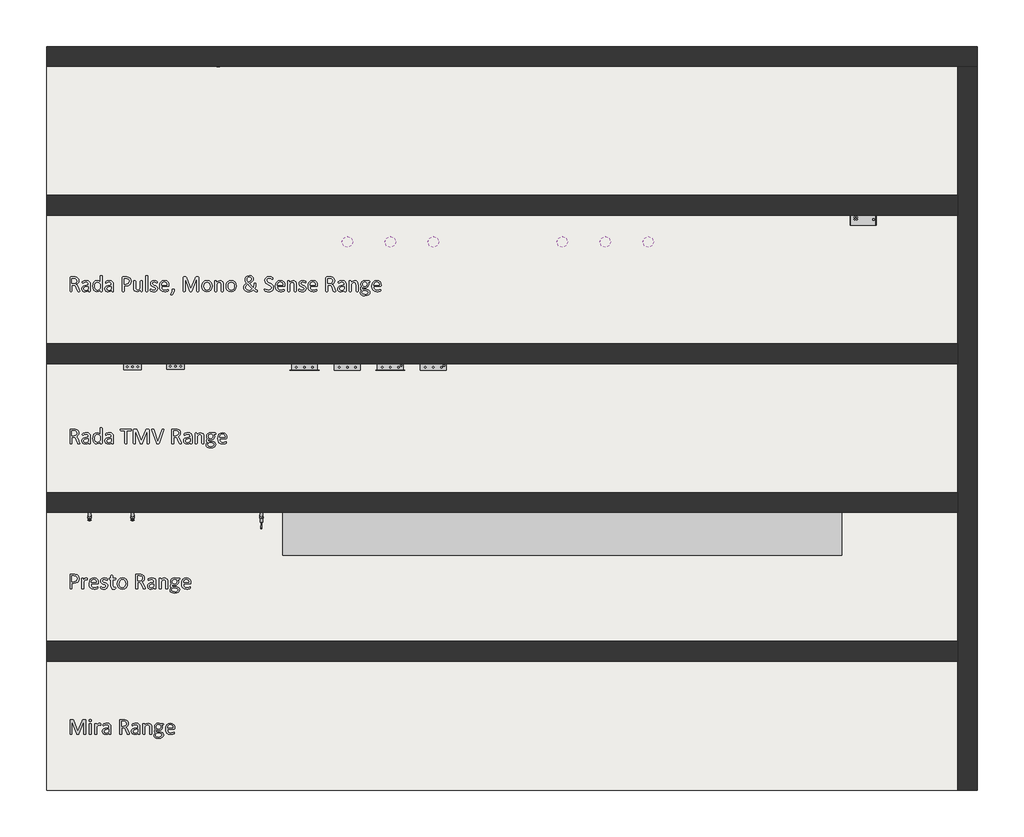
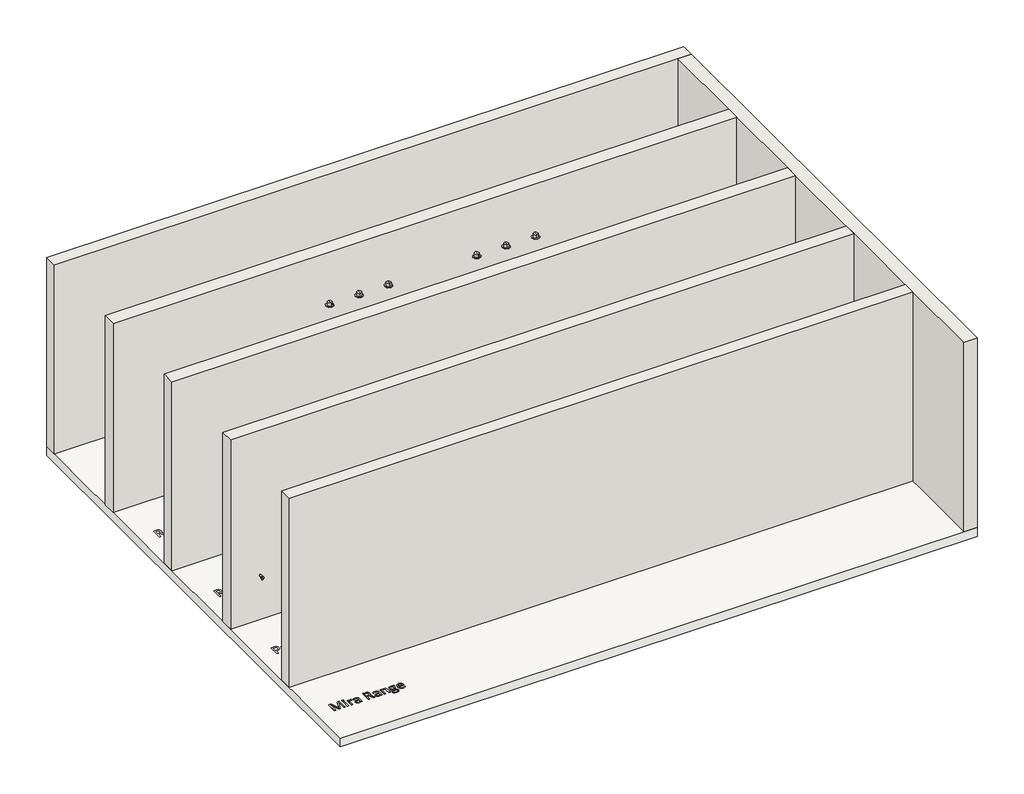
# One storey, part 1 of 3: 17 flow terminals, 6 walls, 1 furniture element, 1 proxy, 1 slab.
"""IFC4 building model written with IfcOpenShell, lengths in millimetres."""

from ifc_helpers import new_model, si_unit, frame, origin, origin_with_axes, place, context, project, spatial, polyline, outline, extrude, faceted_brep, transform, mapped, element, save
from components import flow_terminal_8cce0363, flow_terminal_54447bbb, flow_terminal_6f73c769, flow_terminal_be7e81ce, flow_terminal_5358b9b5, flow_terminal_3c11a249, flow_terminal_3611aa53, basin_sensor_650921_deac0942, cold_p63007_e8478112, control_box_09379_0299824e, standard_p63909_1e119a7e, casework_1_casework_1_e628ac29

model = new_model("IFC4")

# Units and contexts
model_context = context("Model", 3, world=origin())
ifc_project = project(units=[si_unit("LENGTHUNIT", "METRE", prefix="MILLI")], contexts=[model_context])

# Site, building, storey
site = spatial("IfcSite", under=ifc_project)
building = spatial("IfcBuilding", under=site)
storey = spatial("IfcBuildingStorey", under=building, Name="1 Coarse & Medium", Elevation=0.0)

# Proxy
placement = place(None, origin())
element("IfcBuildingElementProxy", 1, Name="200mm Arial", ObjectType="200mm Arial", at=placement, inside=storey, context=model_context, shape_type="SweptSolid", body=[
    extrude(outline(polyline([(-2018.8171013, -10763.8519575), (-2019.3550112, -10765.6962198), (-2021.2761177, -10766.925728), (-2024.785339, -10767.7197854), (-2030.3437407, -10768.0527772), (-2035.7996833, -10767.7197854), (-2039.3857489, -10766.925728), (-2041.2300112, -10765.6962198), (-2041.767921, -10763.8519575), (-2041.767921, -10616.0548264), (-2100.3744784, -10764.5179411), (-2101.5015276, -10766.0804411), (-2103.6019374, -10767.1818755), (-2106.8806259, -10767.8478592), (-2111.3888227, -10768.0527772), (-2116.1275522, -10767.7966296), (-2119.4318554, -10767.0794165), (-2121.4810358, -10765.9523674), (-2122.4543964, -10764.5179411), (-2179.37038, -10616.0548264), (-2179.37038, -10763.8519575), (-2180.0107489, -10765.6962198), (-2181.9318554, -10766.925728), (-2185.517921, -10767.7197854), (-2191.1531669, -10768.0527772), (-2196.6347243, -10767.7197854), (-2200.1439456, -10766.925728), (-2201.9369784, -10765.6962198), (-2202.4236587, -10763.8519575), (-2202.4236587, -10607.8068755), (-2199.477962, -10599.9175313), (-2192.8949702, -10597.5609739), (-2178.9093145, -10597.5609739), (-2171.3785768, -10598.3550313), (-2165.7433308, -10600.8396624), (-2161.7218145, -10605.1685559), (-2158.8785768, -10611.3417116), (-2110.62038, -10734.2413018), (-2060.9277571, -10611.7003182), (-2057.7002981, -10605.0148674), (-2053.8580849, -10600.6347444), (-2049.2218145, -10598.278187), (-2043.3048063, -10597.5609739), (-2028.6531669, -10597.5609739), (-2024.785339, -10598.1501133), (-2021.7115686, -10599.9943755), (-2019.6367735, -10603.1449903), (-2018.8171013, -10607.8068755), (-2018.8171013, -10763.8519575)])), origin_with_axes(), (0.0, 0.0, 1.0), 5.0),
    extrude(outline(polyline([(-1953.2433308, -10607.243351), (-1956.0609538, -10617.7197854), (-1966.5117735, -10620.5117936), (-1976.7064456, -10617.7966296), (-1979.472839, -10607.550728), (-1976.6552161, -10597.0742936), (-1966.2043964, -10594.2822854), (-1956.0097243, -10596.9974493), (-1953.2433308, -10607.243351)])), origin_with_axes(), (0.0, 0.0, 1.0), 5.0),
    extrude(outline(polyline([(-1953.2433308, -10764.0568755), (-1953.8068554, -10765.7986788), (-1955.625503, -10767.028187), (-1959.0834948, -10767.7966296), (-1964.7699702, -10768.0527772), (-1970.3539866, -10767.7966296), (-1973.8888227, -10767.028187), (-1975.7074702, -10765.7986788), (-1976.1941505, -10764.0568755), (-1976.1941505, -10647.4585149), (-1975.7074702, -10645.7935559), (-1973.8888227, -10644.4872034), (-1970.3539866, -10643.7187608), (-1964.7699702, -10643.4626133), (-1959.0834948, -10643.7187608), (-1955.625503, -10644.4872034), (-1953.8068554, -10645.7935559), (-1953.2433308, -10647.4585149), (-1953.2433308, -10764.0568755)])), origin_with_axes(), (0.0, 0.0, 1.0), 5.0),
    extrude(outline(polyline([(-1845.0466095, -10653.2986788), (-1845.1746833, -10657.9605641), (-1845.6869784, -10660.9831051), (-1846.6347243, -10662.6992936), (-1848.222839, -10663.2884329), (-1850.7074702, -10662.6992936), (-1854.0117735, -10661.5210149), (-1858.1357489, -10660.3939657), (-1863.0793964, -10659.8560559), (-1869.3293964, -10661.2648674), (-1875.7586997, -10665.8755231), (-1882.8027571, -10674.3796214), (-1890.9482489, -10687.3663018), (-1890.9482489, -10764.0568755), (-1891.5117735, -10765.7986788), (-1893.330421, -10767.028187), (-1896.7884128, -10767.7966296), (-1902.4748882, -10768.0527772), (-1908.0589046, -10767.7966296), (-1911.5937407, -10767.028187), (-1913.4123882, -10765.7986788), (-1913.8990686, -10764.0568755), (-1913.8990686, -10647.4585149), (-1913.4892325, -10645.7167116), (-1911.8242735, -10644.4359739), (-1908.6224292, -10643.6675313), (-1903.4482489, -10643.4626133), (-1898.3765276, -10643.6675313), (-1895.2515276, -10644.4359739), (-1893.6377981, -10645.7167116), (-1893.1511177, -10647.4585149), (-1893.1511177, -10664.4667116), (-1884.2884128, -10652.3253182), (-1876.4246833, -10644.9226542), (-1869.0988636, -10641.2085149), (-1861.7474292, -10640.1839247), (-1858.0076751, -10640.363228), (-1853.6019374, -10641.0548264), (-1849.4523472, -10642.2074903), (-1846.8396423, -10643.4626133), (-1845.097839, -10648.6880231), (-1845.0466095, -10653.2986788)])), origin_with_axes(), (0.0, 0.0, 1.0), 5.0),
    extrude(outline(polyline([(-1727.0138227, -10764.1081051), (-1728.1408718, -10766.4902772), (-1731.2146423, -10767.6685559), (-1736.9523472, -10768.0527772), (-1742.7668964, -10767.6685559), (-1745.9175112, -10766.4902772), (-1746.8908718, -10764.1081051), (-1746.8908718, -10752.3253182), (-1764.1552161, -10765.9523674), (-1784.3396423, -10771.3314657), (-1801.2709948, -10768.8980641), (-1814.1552161, -10761.8540067), (-1822.4287817, -10750.5322854), (-1825.3744784, -10735.2658919), (-1821.3017325, -10717.8990887), (-1809.6214046, -10705.6552362), (-1790.9994784, -10698.3550313), (-1766.2043964, -10695.9216296), (-1749.9646423, -10695.9216296), (-1749.9646423, -10686.1367936), (-1751.3990686, -10673.3294165), (-1756.0097243, -10664.0568755), (-1764.2320604, -10658.4728592), (-1776.6552161, -10656.5773674), (-1790.8714046, -10658.6265477), (-1801.8857489, -10663.1347444), (-1809.8007079, -10667.6429411), (-1814.5138227, -10669.6921214), (-1816.3580849, -10669.1542116), (-1817.7156669, -10667.5148674), (-1818.5609538, -10664.6972444), (-1818.8171013, -10660.9318755), (-1818.3560358, -10655.5527772), (-1816.1019374, -10651.7874083), (-1809.9543964, -10647.9451952), (-1799.9134128, -10644.1542116), (-1787.4902571, -10641.3109739), (-1773.8888227, -10640.1839247), (-1752.1162817, -10643.0783919), (-1737.5927161, -10651.5312608), (-1729.5240686, -10665.3376133), (-1727.0138227, -10684.5999083), (-1727.0138227, -10764.1081051)]), holes=[polyline([(-1749.9646423, -10712.3150723), (-1768.2023472, -10712.3150723), (-1783.4175112, -10713.8263428), (-1794.1500931, -10718.28331), (-1800.4257079, -10725.3529821), (-1802.4236587, -10734.8560559), (-1800.9892325, -10743.1296214), (-1796.6859538, -10749.5076952), (-1789.7955849, -10753.5804411), (-1780.5998882, -10754.9380231), (-1765.0261177, -10750.6091296), (-1749.9646423, -10737.3663018), (-1749.9646423, -10712.3150723)])]), origin_with_axes(), (0.0, 0.0, 1.0), 5.0),
    extrude(outline(polyline([(-1512.8232489, -10763.903187), (-1513.2074702, -10765.6962198), (-1514.898044, -10767.0025723), (-1518.5865686, -10767.7966296), (-1524.9134128, -10768.0527772), (-1530.4718145, -10767.7966296), (-1533.955421, -10766.9513428), (-1535.9789866, -10765.3376133), (-1537.2084948, -10762.7249083), (-1552.8334948, -10723.278187), (-1558.4943554, -10710.9318755), (-1565.3591095, -10701.2238837), (-1574.7084948, -10694.8970395), (-1587.6695604, -10692.6429411), (-1602.4236587, -10692.6429411), (-1602.4236587, -10763.903187), (-1603.0127981, -10765.7218346), (-1604.8826751, -10766.9513428), (-1608.3662817, -10767.7197854), (-1613.8990686, -10768.0527772), (-1619.4318554, -10767.7197854), (-1622.9666915, -10766.925728), (-1624.8365686, -10765.6962198), (-1625.3744784, -10763.8519575), (-1625.3744784, -10606.7310559), (-1622.7361587, -10599.5845395), (-1617.0752981, -10597.5609739), (-1581.5220194, -10597.5609739), (-1571.0199702, -10597.8939657), (-1563.438003, -10598.6367936), (-1546.3017325, -10604.0158919), (-1533.8017325, -10613.3908919), (-1526.24538, -10626.403187), (-1523.7351341, -10642.5404821), (-1525.9636177, -10657.9093346), (-1532.4185358, -10669.9226542), (-1542.5363636, -10678.9390477), (-1555.7535768, -10685.4195805), (-1548.12038, -10690.055851), (-1541.7423063, -10696.7669165), (-1536.1839046, -10705.7576952), (-1530.9072653, -10717.2331051), (-1515.6921013, -10754.3744985), (-1513.335544, -10760.9318755), (-1512.8232489, -10763.903187)]), holes=[polyline([(-1546.6859538, -10644.9994985), (-1551.0660768, -10628.5548264), (-1556.9382591, -10622.7786993), (-1565.7945604, -10618.8724493), (-1573.0691505, -10617.6173264), (-1583.7248882, -10617.2331051), (-1602.4236587, -10617.2331051), (-1602.4236587, -10672.97081), (-1580.7535768, -10672.97081), (-1565.5896423, -10670.8704001), (-1554.9339046, -10664.9790067), (-1548.6839046, -10656.090687), (-1546.6859538, -10644.9994985)])]), origin_with_axes(), (0.0, 0.0, 1.0), 5.0),
    extrude(outline(polyline([(-1389.3089046, -10764.1081051), (-1390.4359538, -10766.4902772), (-1393.5097243, -10767.6685559), (-1399.2474292, -10768.0527772), (-1405.0619784, -10767.6685559), (-1408.2125931, -10766.4902772), (-1409.1859538, -10764.1081051), (-1409.1859538, -10752.3253182), (-1426.4502981, -10765.9523674), (-1446.6347243, -10771.3314657), (-1463.5660768, -10768.8980641), (-1476.4502981, -10761.8540067), (-1484.7238636, -10750.5322854), (-1487.6695604, -10735.2658919), (-1483.5968145, -10717.8990887), (-1471.9164866, -10705.6552362), (-1453.2945604, -10698.3550313), (-1428.4994784, -10695.9216296), (-1412.2597243, -10695.9216296), (-1412.2597243, -10686.1367936), (-1413.6941505, -10673.3294165), (-1418.3048063, -10664.0568755), (-1426.5271423, -10658.4728592), (-1438.9502981, -10656.5773674), (-1453.1664866, -10658.6265477), (-1464.1808308, -10663.1347444), (-1472.0957899, -10667.6429411), (-1476.8089046, -10669.6921214), (-1478.6531669, -10669.1542116), (-1480.0107489, -10667.5148674), (-1480.8560358, -10664.6972444), (-1481.1121833, -10660.9318755), (-1480.6511177, -10655.5527772), (-1478.3970194, -10651.7874083), (-1472.2494784, -10647.9451952), (-1462.2084948, -10644.1542116), (-1449.785339, -10641.3109739), (-1436.1839046, -10640.1839247), (-1414.4113636, -10643.0783919), (-1399.8877981, -10651.5312608), (-1391.8191505, -10665.3376133), (-1389.3089046, -10684.5999083), (-1389.3089046, -10764.1081051)]), holes=[polyline([(-1412.2597243, -10712.3150723), (-1430.4974292, -10712.3150723), (-1445.7125931, -10713.8263428), (-1456.4451751, -10718.28331), (-1462.7207899, -10725.3529821), (-1464.7187407, -10734.8560559), (-1463.2843145, -10743.1296214), (-1458.9810358, -10749.5076952), (-1452.0906669, -10753.5804411), (-1442.8949702, -10754.9380231), (-1427.3211997, -10750.6091296), (-1412.2597243, -10737.3663018), (-1412.2597243, -10712.3150723)])]), origin_with_axes(), (0.0, 0.0, 1.0), 5.0),
    extrude(outline(polyline([(-1251.6039866, -10764.005646), (-1252.1675112, -10765.7474493), (-1253.9861587, -10767.0025723), (-1257.4441505, -10767.7966296), (-1263.0281669, -10768.0527772), (-1268.7146423, -10767.7966296), (-1272.1726341, -10767.028187), (-1273.9912817, -10765.7986788), (-1274.5548063, -10764.005646), (-1274.5548063, -10695.5630231), (-1276.0660768, -10679.4769575), (-1280.4461997, -10668.9492936), (-1287.9000931, -10662.1869985), (-1298.4789866, -10659.8560559), (-1314.0271423, -10665.568146), (-1330.2925112, -10682.34581), (-1330.2925112, -10764.005646), (-1330.8560358, -10765.7986788), (-1332.6746833, -10767.028187), (-1336.1326751, -10767.7966296), (-1341.8191505, -10768.0527772), (-1347.4031669, -10767.7966296), (-1350.938003, -10767.028187), (-1352.7566505, -10765.7986788), (-1353.2433308, -10764.0568755), (-1353.2433308, -10647.4585149), (-1352.8334948, -10645.7167116), (-1351.1685358, -10644.4359739), (-1347.9666915, -10643.6675313), (-1342.7925112, -10643.4626133), (-1337.7207899, -10643.6675313), (-1334.5957899, -10644.4359739), (-1332.9820604, -10645.7167116), (-1332.49538, -10647.4585149), (-1332.49538, -10662.8785969), (-1312.9000931, -10645.6398674), (-1293.2023472, -10640.1839247), (-1273.6326751, -10644.1798264), (-1260.7740686, -10654.8611788), (-1253.7300112, -10670.5117936), (-1251.6039866, -10692.0794165), (-1251.6039866, -10764.005646)])), origin_with_axes(), (0.0, 0.0, 1.0), 5.0),
    extrude(outline(polyline([(-1113.8990686, -10651.7105641), (-1115.1541915, -10657.9349493), (-1118.3560358, -10659.8560559), (-1135.313003, -10659.8560559), (-1128.8580849, -10670.4605641), (-1127.0138227, -10682.4994985), (-1130.2925112, -10700.7372034), (-1139.6931259, -10714.1593346), (-1154.2423063, -10722.5353592), (-1172.915462, -10725.4298264), (-1186.6705849, -10723.5087198), (-1196.7371833, -10718.6675313), (-1200.835544, -10724.0210149), (-1202.4236587, -10730.9626133), (-1198.0691505, -10738.5445805), (-1186.4912817, -10741.823269), (-1155.0363636, -10743.1552362), (-1138.540462, -10745.6398674), (-1125.5537817, -10751.9667116), (-1116.972839, -10762.03331), (-1113.8990686, -10775.8908919), (-1117.3314456, -10791.7464247), (-1127.8591095, -10804.9636378), (-1145.9431259, -10813.9544165), (-1171.8908718, -10817.2331051), (-1196.455421, -10814.7740887), (-1213.0537817, -10808.0630231), (-1222.4543964, -10797.8939657), (-1225.3744784, -10785.1122034), (-1224.3242735, -10776.5824903), (-1221.0968145, -10768.7443755), (-1215.7177161, -10761.6490887), (-1208.3150522, -10754.9380231), (-1218.7146423, -10746.510769), (-1222.0957899, -10735.5220395), (-1218.6121833, -10720.9472444), (-1210.0056259, -10709.4462198), (-1216.460544, -10698.4318755), (-1218.8171013, -10683.5240887), (-1215.410339, -10665.3119985), (-1205.93288, -10651.6849493), (-1191.3836997, -10643.1552362), (-1172.915462, -10640.1839247), (-1162.8744784, -10641.0548264), (-1154.1142325, -10643.4626133), (-1118.3560358, -10643.4626133), (-1115.0261177, -10645.4861788), (-1113.8990686, -10651.7105641)]), holes=[polyline([(-1146.6859538, -10682.653187), (-1148.4149497, -10671.7092833), (-1153.6019374, -10663.4677362), (-1161.977962, -10658.2999596), (-1173.2740686, -10656.5773674), (-1184.6982489, -10658.7290067), (-1192.7925112, -10664.6204001), (-1197.5824702, -10673.2525723), (-1199.1449702, -10683.4728592), (-1197.4159743, -10694.1285969), (-1192.2289866, -10702.2228592), (-1183.9298063, -10707.3330026), (-1172.8642325, -10709.0363837), (-1161.2095194, -10706.9615887), (-1153.0384128, -10701.198269), (-1148.2484538, -10692.6941706), (-1146.6859538, -10682.653187)]), polyline([(-1136.8498882, -10776.6081051), (-1138.438003, -10769.3911481), (-1143.2023472, -10764.0312608), (-1160.3642325, -10759.3437608), (-1191.5117735, -10758.2167116), (-1198.5558308, -10764.8765477), (-1202.910339, -10770.9216296), (-1205.1132079, -10776.5824903), (-1205.7023472, -10782.34581), (-1203.4994784, -10790.3568243), (-1196.8908718, -10796.1521624), (-1172.3007079, -10800.8396624), (-1155.4974292, -10798.8160969), (-1144.585544, -10793.4113837), (-1138.642921, -10785.7013428), (-1136.8498882, -10776.6081051)])]), origin_with_axes(), (0.0, 0.0, 1.0), 5.0),
    extrude(outline(polyline([(-982.7515276, -10699.6613837), (-985.2873882, -10706.8847444), (-991.1019374, -10709.0363837), (-1067.9974292, -10709.0363837), (-1066.0763227, -10727.9913018), (-1059.6982489, -10742.4380231), (-1048.0691505, -10751.7105641), (-1030.5486587, -10754.9380231), (-1015.9994784, -10753.4267526), (-1004.9339046, -10750.0199903), (-997.2750931, -10746.613228), (-992.7412817, -10745.1019575), (-991.1531669, -10745.5374083), (-990.0517325, -10746.818146), (-989.4882079, -10749.2003182), (-989.3089046, -10752.9400723), (-989.4369784, -10755.680851), (-989.7699702, -10757.755646), (-990.410339, -10759.4206051), (-991.563003, -10760.8294165), (-995.7382079, -10763.3140477), (-1004.7289866, -10766.8488837), (-1017.5363636, -10769.948269), (-1033.0589046, -10771.3314657), (-1058.0845194, -10767.2331051), (-1076.142921, -10755.0404821), (-1087.2084948, -10734.7279821), (-1090.9482489, -10706.3724493), (-1087.0291915, -10678.7085149), (-1075.7330849, -10657.9093346), (-1057.9052161, -10644.7689657), (-1034.4933308, -10640.1839247), (-1010.9277571, -10644.6152772), (-994.9185358, -10656.5517526), (-985.6972243, -10674.1490887), (-982.7515276, -10695.7167116), (-982.7515276, -10699.6613837)]), holes=[polyline([(-1005.7023472, -10692.6429411), (-1007.3609026, -10677.6006768), (-1013.0537817, -10666.1829001), (-1022.6401034, -10658.9787505), (-1035.9789866, -10656.5773674), (-1049.6316505, -10659.5486788), (-1059.4421013, -10667.4636378), (-1065.5640276, -10678.9646624), (-1067.9974292, -10692.6429411), (-1005.7023472, -10692.6429411)])]), origin_with_axes(), (0.0, 0.0, 1.0), 5.0),
])

# Flow terminals
flow_terminal_shape = flow_terminal_8cce0363(model_context)
element("IfcFlowTerminal", 2, ObjectType="Plumbing Fixtures_Sensor_Thornthwaite_Rada Ligature Resistant Sensor : LR Ligature Resistant Sensor - 1640.002", at=placement, inside=storey, context=model_context, shape_type="MappedRepresentation", body=[
    mapped(flow_terminal_shape, transform((-475.3744784, -2993.0527772, 0.0), x_axis=(1.0, 0.0, 0.0), y_axis=(0.0, 1.0, 0.0), z_axis=(0.0, 0.0, 1.0))),
])
flow_terminal_2_shape = flow_terminal_54447bbb(model_context)
element("IfcFlowTerminal", 3, ObjectType="Plumbing Fixtures_Thermostatic Mixing Valve_Thornthwaite_Rada 215dk TMV Cold Feed in 300mm box : Rada 215dk TMV in an exposed box with Lid and Cold Feed - 40861EB300CF", at=placement, inside=storey, context=model_context, shape_type="MappedRepresentation", body=[
    mapped(flow_terminal_2_shape, transform((2024.6255216, -6495.5527772, 0.0), x_axis=(1.0, 0.0, 0.0), y_axis=(0.0, 1.0, 0.0), z_axis=(0.0, 0.0, 1.0))),
])
flow_terminal_3_shape = flow_terminal_6f73c769(model_context)
element("IfcFlowTerminal", 4, ObjectType="Plumbing Fixtures_Thermostatic Mixing Valve_Thornthwaite_Rada 215dk TMV Cold Feed in 300mm box : Rada 215dk TMV in a recessed box with Lid and Cold Feed - 40861RB300CF", at=placement, inside=storey, context=model_context, shape_type="MappedRepresentation", body=[
    mapped(flow_terminal_3_shape, transform((1524.6255216, -6495.5527772, 0.0), x_axis=(1.0, 0.0, 0.0), y_axis=(0.0, 1.0, 0.0), z_axis=(0.0, 0.0, 1.0))),
])
flow_terminal_4_shape = flow_terminal_be7e81ce(model_context)
element("IfcFlowTerminal", 5, ObjectType="Plumbing Fixtures_Thermostatic Mixing Valve_Thornthwaite_Rada 215dk TMV in 300mm box : Rada 215dk TMV in a recessed box with Lid - 40861RB300", at=placement, inside=storey, context=model_context, shape_type="MappedRepresentation", body=[
    mapped(flow_terminal_4_shape, transform((524.6255216, -6495.5527772, 0.0), x_axis=(1.0, 0.0, 0.0), y_axis=(0.0, 1.0, 0.0), z_axis=(0.0, 0.0, 1.0))),
])
flow_terminal_5_shape = flow_terminal_5358b9b5(model_context)
element("IfcFlowTerminal", 6, ObjectType="Plumbing Fixtures_Thermostatic Mixing Valve_Thornthwaite_Rada 215dk TMV in 300mm box : Rada 215dk TMV in an exposed box with Lid - 40861EBG300", at=placement, inside=storey, context=model_context, shape_type="MappedRepresentation", body=[
    mapped(flow_terminal_5_shape, transform((1024.6255216, -6495.5527772, 0.0), x_axis=(1.0, 0.0, 0.0), y_axis=(0.0, 1.0, 0.0), z_axis=(0.0, 0.0, 1.0))),
])
flow_terminal_6_shape = flow_terminal_3c11a249(model_context)
element("IfcFlowTerminal", 7, ObjectType="Plumbing Fixtures_Thermostatic Mixing Valve_Thornthwaite_Rada 215bk TMV in 200mm box : Rada 215bk TMV in recessed stainless steel box with Lid - 40863RB200", at=placement, inside=storey, context=model_context, shape_type="MappedRepresentation", body=[
    mapped(flow_terminal_6_shape, transform((-1475.3744784, -6499.5527772, 0.0), x_axis=(1.0, 0.0, 0.0), y_axis=(0.0, 1.0, 0.0), z_axis=(0.0, 0.0, 1.0))),
])
flow_terminal_7_shape = flow_terminal_3611aa53(model_context)
element("IfcFlowTerminal", 8, ObjectType="Plumbing Fixtures_Thermostatic Mixing Valve_Thornthwaite_Rada 215bk TMV in 200mm box : Rada 215bk TMV in an exposed stainless steel box with Lid - 40863EB200", at=placement, inside=storey, context=model_context, shape_type="MappedRepresentation", body=[
    mapped(flow_terminal_7_shape, transform((-975.3744784, -6495.5527772, 0.0), x_axis=(1.0, 0.0, 0.0), y_axis=(0.0, 1.0, 0.0), z_axis=(0.0, 0.0, 1.0))),
])
basin_sensor_650921_shape = basin_sensor_650921_deac0942(model_context)
element("IfcFlowTerminal", 9, ObjectType="Plumbing Fixtures_Sensor_Thornthwaite_Rada Pulse 125_126 : 125 Urinal Sensor - 1 Stall - 850661", at=placement, inside=storey, context=model_context, shape_type="MappedRepresentation", body=[
    mapped(basin_sensor_650921_shape, transform((4024.6255216, -5042.0527772, 0.0), x_axis=(1.0, 0.0, 0.0), y_axis=(0.0, 1.0, 0.0), z_axis=(0.0, 0.0, 1.0))),
])
element("IfcFlowTerminal", 10, ObjectType="Plumbing Fixtures_Sensor_Thornthwaite_Rada Mono 125_126 : 125 Urinal Sensor - 1 Stall - 850931", at=placement, inside=storey, context=model_context, shape_type="MappedRepresentation", body=[
    mapped(basin_sensor_650921_shape, transform((1524.6255216, -5042.0527772, 0.0), x_axis=(1.0, 0.0, 0.0), y_axis=(0.0, 1.0, 0.0), z_axis=(0.0, 0.0, 1.0))),
])
element("IfcFlowTerminal", 11, ObjectType="Plumbing Fixtures_Sensor_Thornthwaite_Rada Pulse 125_126 : 126 Urinal Sensor - 2 Stall - 850671", at=placement, inside=storey, context=model_context, shape_type="MappedRepresentation", body=[
    mapped(basin_sensor_650921_shape, transform((4524.6255216, -5042.0527772, 0.0), x_axis=(1.0, 0.0, 0.0), y_axis=(0.0, 1.0, 0.0), z_axis=(0.0, 0.0, 1.0))),
])
element("IfcFlowTerminal", 12, ObjectType="Plumbing Fixtures_Sensor_Thornthwaite_Rada Mono 125_126 : 126 Urinal Sensor - 2 Stall - 850941", at=placement, inside=storey, context=model_context, shape_type="MappedRepresentation", body=[
    mapped(basin_sensor_650921_shape, transform((2024.6255216, -5042.0527772, 0.0), x_axis=(1.0, 0.0, 0.0), y_axis=(0.0, 1.0, 0.0), z_axis=(0.0, 0.0, 1.0))),
])
element("IfcFlowTerminal", 13, ObjectType="Plumbing Fixtures_Sensor_Thornthwaite_Rada Pulse 124 : Basin Sensor - 650651", at=placement, inside=storey, context=model_context, shape_type="MappedRepresentation", body=[
    mapped(basin_sensor_650921_shape, transform((3524.6255216, -5042.0527772, 0.0), x_axis=(1.0, 0.0, 0.0), y_axis=(0.0, 1.0, 0.0), z_axis=(0.0, 0.0, 1.0))),
])
element("IfcFlowTerminal", 14, ObjectType="Plumbing Fixtures_Sensor_Thornthwaite_Rada Mono 124 : Basin Sensor - 650921", at=placement, inside=storey, context=model_context, shape_type="MappedRepresentation", body=[
    mapped(basin_sensor_650921_shape, transform((1024.6255216, -5042.0527772, 0.0), x_axis=(1.0, 0.0, 0.0), y_axis=(0.0, 1.0, 0.0), z_axis=(0.0, 0.0, 1.0))),
])
cold_p63007_shape = cold_p63007_e8478112(model_context)
element("IfcFlowTerminal", 15, ObjectType="Plumbing Fixtures_Tap_Thornthwaite_Presto 504_Cold : Cold - P63007", at=placement, inside=storey, context=model_context, shape_type="MappedRepresentation", body=[
    mapped(cold_p63007_shape, transform((-1975.3744784, -8236.0527772, 0.0), x_axis=(1.0, 0.0, 0.0), y_axis=(0.0, 1.0, 0.0), z_axis=(0.0, 0.0, 1.0))),
])
element("IfcFlowTerminal", 16, ObjectType="Plumbing Fixtures_Tap_Thornthwaite_Presto 504_Cold : Cold Security - P63107", at=placement, inside=storey, context=model_context, shape_type="MappedRepresentation", body=[
    mapped(cold_p63007_shape, transform((-1475.3744784, -8236.0527772, 0.0), x_axis=(1.0, 0.0, 0.0), y_axis=(0.0, 1.0, 0.0), z_axis=(0.0, 0.0, 1.0))),
])
control_box_09379_shape = control_box_09379_0299824e(model_context)
element("IfcFlowTerminal", 17, ObjectType="Plumbing Fixtures_Sensor_Thornthwaite_Rada Pulse Control Box : Control Box - 09379", at=placement, inside=storey, context=model_context, shape_type="MappedRepresentation", body=[
    mapped(control_box_09379_shape, transform((7024.6255216, -4762.0527772, 0.0), x_axis=(1.0, 0.0, 0.0), y_axis=(0.0, 1.0, 0.0), z_axis=(0.0, 0.0, 1.0))),
])
standard_p63909_shape = standard_p63909_1e119a7e(model_context)
element("IfcFlowTerminal", 18, ObjectType="Plumbing Fixtures_Tap_Thornthwaite_Presto 704 : Standard - P63909", at=placement, inside=storey, context=model_context, shape_type="MappedRepresentation", body=[
    mapped(standard_p63909_shape, transform((24.6255216, -8283.0527772, 0.0), x_axis=(1.0, 0.0, 0.0), y_axis=(0.0, 1.0, 0.0), z_axis=(0.0, 0.0, 1.0))),
])

# Furniture
casework_1_casework_1_shape = casework_1_casework_1_e628ac29(model_context)
element("IfcFurniture", 19, ObjectType="Casework 1 : Casework 1", at=placement, inside=storey, context=model_context, shape_type="MappedRepresentation", body=[
    mapped(casework_1_casework_1_shape, transform((0.0, 0.0, 0.0), x_axis=(1.0, 0.0, 0.0), y_axis=(0.0, 1.0, 0.0), z_axis=(0.0, 0.0, 1.0))),
])

# Slab
element("IfcSlab", 20, ObjectType="Tiled on Concrete150mm", at=placement, inside=storey, context=model_context, shape_type="SweptSolid", body=[
    extrude(outline(polyline([(8354.6255216, -11418.0527772), (-2475.3744784, -11418.0527772), (-2475.3744784, -2768.0527772), (8354.6255216, -2768.0527772), (8354.6255216, -11418.0527772)])), frame((0.0, 0.0, -160.0), z_axis=(0.0, 0.0, 1.0), x_axis=(1.0, 0.0, 0.0)), (0.0, 0.0, 1.0), 160.0),
])

# Walls
element("IfcWall", 21, ObjectType="Brick", at=placement, inside=storey, context=model_context, shape_type="Brep", body=[
    faceted_brep([(-2475.3744784, -2998.0527772, 0.0), (8124.6255216, -2998.0527772, 0.0), (8354.6255216, -2998.0527772, 0.0), (8354.6255216, -2998.0527772, 3400.0), (8124.6255216, -2998.0527772, 3400.0), (-2475.3744784, -2998.0527772, 3400.0), (-2475.3744784, -2768.0527772, 0.0), (-2475.3744784, -2768.0527772, 3400.0), (8354.6255216, -2768.0527772, 3400.0), (8354.6255216, -2768.0527772, 0.0)], [[[0, 1, 2, 3, 4, 5]], [[6, 7, 8, 9]], [[2, 1, 0, 6, 9]], [[5, 4, 3, 8, 7]], [[0, 5, 7, 6]], [[3, 2, 9, 8]]]),
])
element("IfcWall", 22, ObjectType="Brick", at=placement, inside=storey, context=model_context, shape_type="Brep", body=[
    faceted_brep([(8354.6255216, -11418.0527772, 0.0), (8354.6255216, -2998.0527772, 0.0), (8354.6255216, -2998.0527772, 3400.0), (8354.6255216, -11418.0527772, 3400.0), (8124.6255216, -11418.0527772, 0.0), (8124.6255216, -11418.0527772, 3400.0), (8124.6255216, -9918.0527772, 3400.0), (8124.6255216, -9688.0527772, 3400.0), (8124.6255216, -8188.0527772, 3400.0), (8124.6255216, -7958.0527772, 3400.0), (8124.6255216, -6458.0527772, 3400.0), (8124.6255216, -6228.0527772, 3400.0), (8124.6255216, -4728.0527772, 3400.0), (8124.6255216, -4498.0527772, 3400.0), (8124.6255216, -2998.0527772, 3400.0), (8124.6255216, -2998.0527772, 0.0), (8124.6255216, -4498.0527772, 0.0), (8124.6255216, -4728.0527772, 0.0), (8124.6255216, -6228.0527772, 0.0), (8124.6255216, -6458.0527772, 0.0), (8124.6255216, -7958.0527772, 0.0), (8124.6255216, -8188.0527772, 0.0), (8124.6255216, -9688.0527772, 0.0), (8124.6255216, -9918.0527772, 0.0)], [[[0, 1, 2, 3]], [[4, 5, 6, 7, 8, 9, 10, 11, 12, 13, 14, 15, 16, 17, 18, 19, 20, 21, 22, 23]], [[1, 0, 4, 23, 22, 21, 20, 19, 18, 17, 16, 15]], [[3, 2, 14, 13, 12, 11, 10, 9, 8, 7, 6, 5]], [[0, 3, 5, 4]], [[2, 1, 15, 14]]]),
])
element("IfcWall", 23, ObjectType="Brick", at=placement, inside=storey, context=model_context, shape_type="SweptSolid", body=[
    extrude(outline(polyline([(-2475.3744784, -9688.0527772), (8124.6255216, -9688.0527772), (8124.6255216, -9918.0527772), (-2475.3744784, -9918.0527772), (-2475.3744784, -9688.0527772)])), origin_with_axes(), (0.0, 0.0, 1.0), 3400.0),
])
element("IfcWall", 24, ObjectType="Brick", at=placement, inside=storey, context=model_context, shape_type="SweptSolid", body=[
    extrude(outline(polyline([(-2475.3744784, -7958.0527772), (8124.6255216, -7958.0527772), (8124.6255216, -8188.0527772), (-2475.3744784, -8188.0527772), (-2475.3744784, -7958.0527772)])), origin_with_axes(), (0.0, 0.0, 1.0), 3400.0),
])
element("IfcWall", 25, ObjectType="Brick", at=placement, inside=storey, context=model_context, shape_type="SweptSolid", body=[
    extrude(outline(polyline([(-2475.3744784, -6228.0527772), (8124.6255216, -6228.0527772), (8124.6255216, -6458.0527772), (-2475.3744784, -6458.0527772), (-2475.3744784, -6228.0527772)])), origin_with_axes(), (0.0, 0.0, 1.0), 3400.0),
])
element("IfcWall", 26, ObjectType="Brick", at=placement, inside=storey, context=model_context, shape_type="SweptSolid", body=[
    extrude(outline(polyline([(-2475.3744784, -4498.0527772), (8124.6255216, -4498.0527772), (8124.6255216, -4728.0527772), (-2475.3744784, -4728.0527772), (-2475.3744784, -4498.0527772)])), origin_with_axes(), (0.0, 0.0, 1.0), 3400.0),
])

save(model, "model.ifc")
